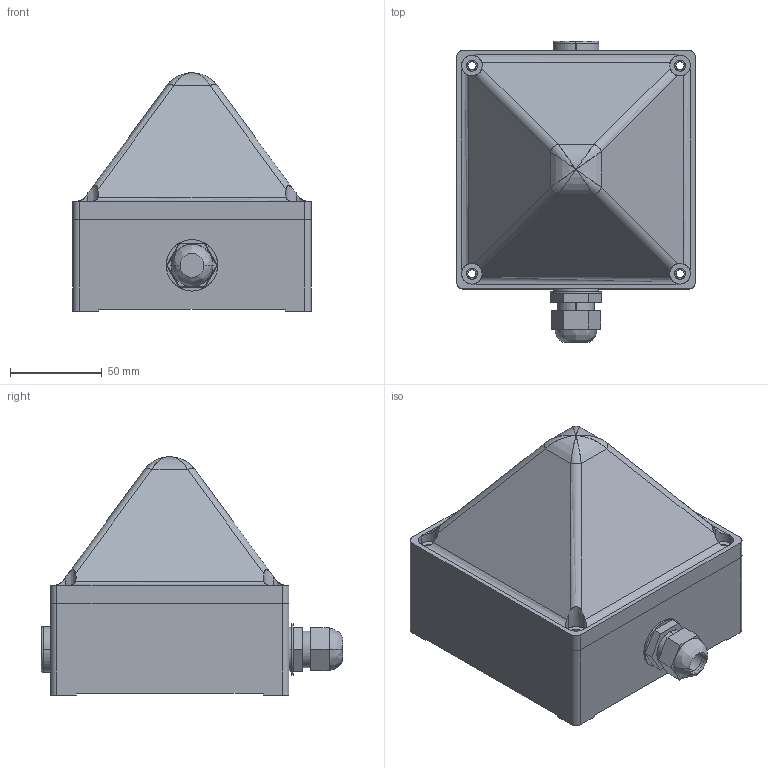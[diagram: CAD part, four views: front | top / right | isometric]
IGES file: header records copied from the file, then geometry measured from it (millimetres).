
Start section: SolidWorks IGES file using analytic representation for surfaces
Global section: file name: L:\3D Volumenmodelle\QUADRO F12-3G3D\QUADRO F12-3G3D.IGS; native system: SolidWorks 2007; preprocessor: SolidWorks 2007; author: seichler; date: 080829.091915; units: millimetre
Bounding box: 130.09 x 164.37 x 130 mm (x, y, z)
Surface area: 127423.4 mm2 (no closed solid volume)
Topology: 0 solids, 0 shells, 329 faces, 3983 edges, 3979 vertices
Faces by surface type: bspline 190, revolution 139
